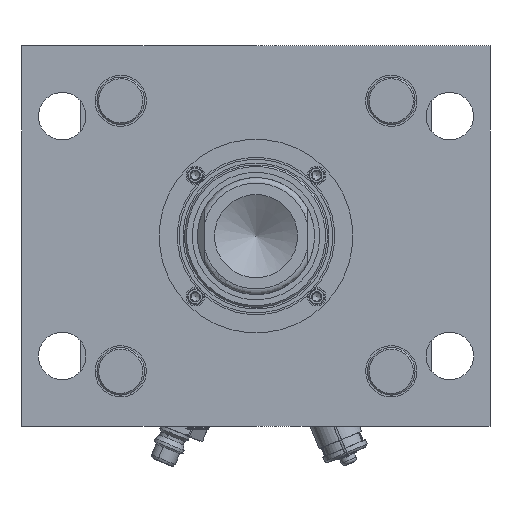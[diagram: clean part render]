
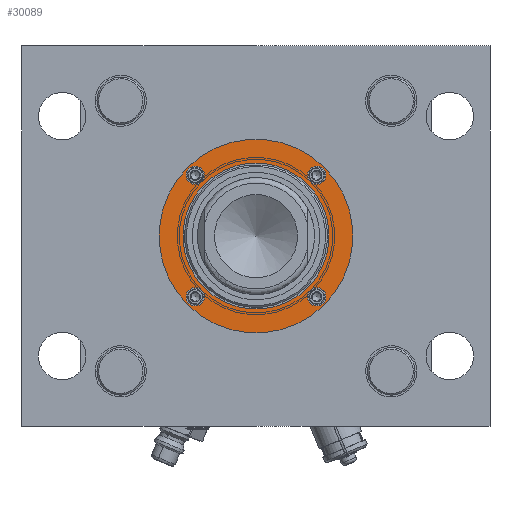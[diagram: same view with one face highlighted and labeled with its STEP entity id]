
A CAD part, front view. The second image highlights one B-rep face of the part: STEP entity #30089.
In plain terms, the highlighted planar face has unit normal (0, -1, 0) as drawn and (-1, 0, 0) by its records, which use the part's own axes.
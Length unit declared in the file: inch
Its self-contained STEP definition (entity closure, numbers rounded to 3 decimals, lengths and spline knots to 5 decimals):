
#131 = DIRECTION ( 'NONE',  ( -1., 0., 0. ) ) ;
#2205 = EDGE_LOOP ( 'NONE', ( #24395 ) ) ;
#2878 = VERTEX_POINT ( 'NONE', #34361 ) ;
#2913 = EDGE_CURVE ( 'NONE', #2878, #2878, #32214, .T. ) ;
#3227 = VERTEX_POINT ( 'NONE', #21437 ) ;
#3412 = EDGE_CURVE ( 'NONE', #3840, #3840, #8450, .T. ) ;
#3840 = VERTEX_POINT ( 'NONE', #20010 ) ;
#4315 = AXIS2_PLACEMENT_3D ( 'NONE', #13736, #34308, #22727 ) ;
#6516 = DIRECTION ( 'NONE',  ( 0., 0., -1. ) ) ;
#7427 = CIRCLE ( 'NONE', #8373, 1.65625 ) ;
#7662 = CARTESIAN_POINT ( 'NONE',  ( 0., 0., 1.625 ) ) ;
#7758 = EDGE_CURVE ( 'NONE', #37829, #37829, #10421, .T. ) ;
#8373 = AXIS2_PLACEMENT_3D ( 'NONE', #14365, #10856, #22970 ) ;
#8450 = CIRCLE ( 'NONE', #30953, 1.25 ) ;
#8646 = CIRCLE ( 'NONE', #4315, 0.15625 ) ;
#10421 = CIRCLE ( 'NONE', #28808, 0.15625 ) ;
#10856 = DIRECTION ( 'NONE',  ( -1., 0., 0. ) ) ;
#12641 = EDGE_LOOP ( 'NONE', ( #33650 ) ) ;
#12766 = DIRECTION ( 'NONE',  ( -1., 0., 0. ) ) ;
#13736 = CARTESIAN_POINT ( 'NONE',  ( 0., -1.46875, 0. ) ) ;
#14365 = CARTESIAN_POINT ( 'NONE',  ( 0., 0., 0. ) ) ;
#14833 = DIRECTION ( 'NONE',  ( 0., 0., 1. ) ) ;
#15137 = FACE_BOUND ( 'NONE', #32755, .T. ) ;
#15641 = DIRECTION ( 'NONE',  ( 1., 0., 0. ) ) ;
#16595 = FACE_BOUND ( 'NONE', #26571, .T. ) ;
#18231 = EDGE_CURVE ( 'NONE', #23811, #23811, #7427, .T. ) ;
#18845 = CIRCLE ( 'NONE', #26809, 0.15625 ) ;
#19056 = EDGE_LOOP ( 'NONE', ( #33586 ) ) ;
#20010 = CARTESIAN_POINT ( 'NONE',  ( 0., 0., 1.25 ) ) ;
#21246 = CARTESIAN_POINT ( 'NONE',  ( 0., 0., -1.46875 ) ) ;
#21437 = CARTESIAN_POINT ( 'NONE',  ( 0., -1.46875, 0.15625 ) ) ;
#21781 = CARTESIAN_POINT ( 'NONE',  ( 0., 1.25, 0. ) ) ;
#22727 = DIRECTION ( 'NONE',  ( 0., 0., 1. ) ) ;
#22970 = DIRECTION ( 'NONE',  ( 0., 0., 1. ) ) ;
#23581 = DIRECTION ( 'NONE',  ( -1., 0., 0. ) ) ;
#23811 = VERTEX_POINT ( 'NONE', #26148 ) ;
#24082 = DIRECTION ( 'NONE',  ( -1., 0., 0. ) ) ;
#24395 = ORIENTED_EDGE ( 'NONE', *, *, #7758, .F. ) ;
#24497 = FACE_OUTER_BOUND ( 'NONE', #12641, .T. ) ;
#24948 = CARTESIAN_POINT ( 'NONE',  ( 0., 0., -1.3125 ) ) ;
#26148 = CARTESIAN_POINT ( 'NONE',  ( 0., 0., 1.65625 ) ) ;
#26571 = EDGE_LOOP ( 'NONE', ( #26890 ) ) ;
#26733 = CARTESIAN_POINT ( 'NONE',  ( 0., 0., 1.46875 ) ) ;
#26809 = AXIS2_PLACEMENT_3D ( 'NONE', #21246, #12766, #33631 ) ;
#26890 = ORIENTED_EDGE ( 'NONE', *, *, #2913, .F. ) ;
#27082 = DIRECTION ( 'NONE',  ( 0., 0., 1. ) ) ;
#27610 = PLANE ( 'NONE',  #33407 ) ;
#28211 = AXIS2_PLACEMENT_3D ( 'NONE', #38549, #23581, #14833 ) ;
#28610 = EDGE_LOOP ( 'NONE', ( #37402 ) ) ;
#28808 = AXIS2_PLACEMENT_3D ( 'NONE', #26733, #131, #35570 ) ;
#29641 = FACE_BOUND ( 'NONE', #19056, .T. ) ;
#30089 = ADVANCED_FACE ( 'NONE', ( #16595, #31981, #38462, #29641, #15137, #24497 ), #27610, .F. ) ;
#30214 = ORIENTED_EDGE ( 'NONE', *, *, #3412, .F. ) ;
#30813 = VERTEX_POINT ( 'NONE', #24948 ) ;
#30953 = AXIS2_PLACEMENT_3D ( 'NONE', #32828, #24082, #27082 ) ;
#31981 = FACE_BOUND ( 'NONE', #2205, .T. ) ;
#32214 = CIRCLE ( 'NONE', #28211, 0.15625 ) ;
#32755 = EDGE_LOOP ( 'NONE', ( #30214 ) ) ;
#32828 = CARTESIAN_POINT ( 'NONE',  ( 0., 0., 0. ) ) ;
#33407 = AXIS2_PLACEMENT_3D ( 'NONE', #21781, #15641, #6516 ) ;
#33586 = ORIENTED_EDGE ( 'NONE', *, *, #36284, .F. ) ;
#33631 = DIRECTION ( 'NONE',  ( 0., 0., 1. ) ) ;
#33650 = ORIENTED_EDGE ( 'NONE', *, *, #18231, .T. ) ;
#34308 = DIRECTION ( 'NONE',  ( -1., 0., 0. ) ) ;
#34361 = CARTESIAN_POINT ( 'NONE',  ( 0., 1.46875, 0.15625 ) ) ;
#35570 = DIRECTION ( 'NONE',  ( 0., 0., 1. ) ) ;
#35878 = EDGE_CURVE ( 'NONE', #3227, #3227, #8646, .T. ) ;
#36284 = EDGE_CURVE ( 'NONE', #30813, #30813, #18845, .T. ) ;
#37402 = ORIENTED_EDGE ( 'NONE', *, *, #35878, .F. ) ;
#37829 = VERTEX_POINT ( 'NONE', #7662 ) ;
#38462 = FACE_BOUND ( 'NONE', #28610, .T. ) ;
#38549 = CARTESIAN_POINT ( 'NONE',  ( 0., 1.46875, 0. ) ) ;
